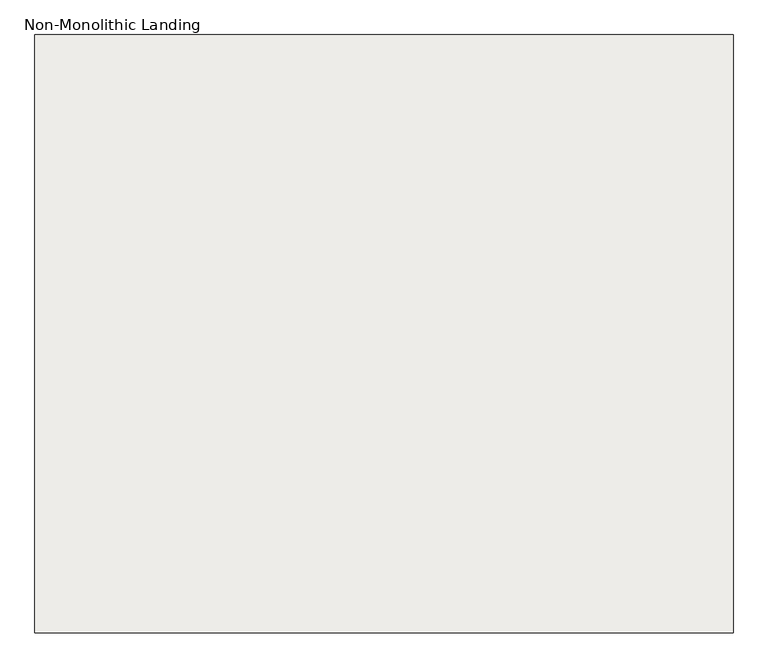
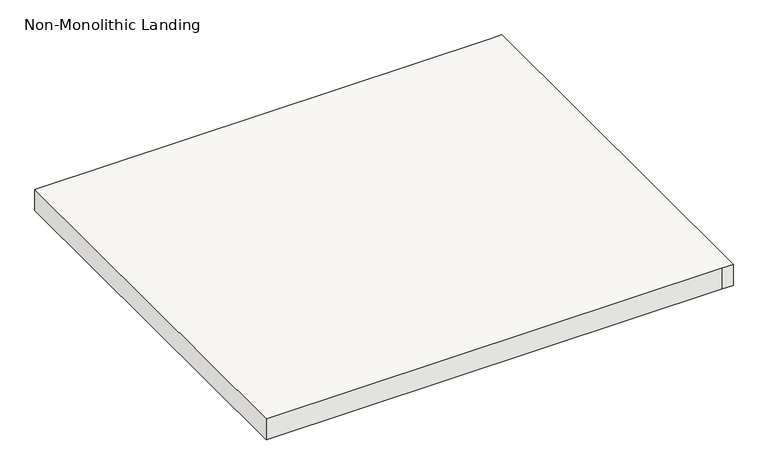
"""IFC4 building model written with IfcOpenShell, lengths in millimetres: slab geometry, Non-Monolithic Landing."""

from ifc_helpers import new_model, si_unit, frame, origin, place, context, project, spatial, polyline, outline, extrude, source, transform, mapped, element, save


def non_monolithic_landing_a421247d(model_context):
    return source(origin(), model_context, "Body", "SweptSolid", [
        extrude(outline(polyline([(5276.9721922, 43194.7406645), (6318.3721922, 43194.7406645), (6343.7721922, 43194.7406645), (6343.7721922, 42280.3406645), (6318.3721922, 42280.3406645), (5276.9721922, 42280.3406645), (5276.9721922, 43194.7406645)])), frame((0.0, 0.0, 2069.5478261), z_axis=(0.0, 0.0, 1.0), x_axis=(1.0, 0.0, 0.0)), (0.0, 0.0, 1.0), 50.8),
    ])


if __name__ == "__main__":
    model = new_model("IFC4")
    model_context = context("Model", 3, world=origin())
    ifc_project = project(units=[si_unit("LENGTHUNIT", "METRE", prefix="MILLI")], contexts=[model_context])
    site = spatial("IfcSite", under=ifc_project)
    building = spatial("IfcBuilding", under=site)
    placement = place(None, origin())
    non_monolithic_landing_shape = non_monolithic_landing_a421247d(model_context)
    element("IfcSlab", 1, ObjectType="Non-Monolithic Landing", at=placement, inside=building, context=model_context, shape_type="MappedRepresentation", body=[
        mapped(non_monolithic_landing_shape, transform((0.0, 0.0, 0.0), x_axis=(1.0, 0.0, 0.0), y_axis=(0.0, 1.0, 0.0), z_axis=(0.0, 0.0, 1.0))),
    ])
    save(model, "model.ifc")
